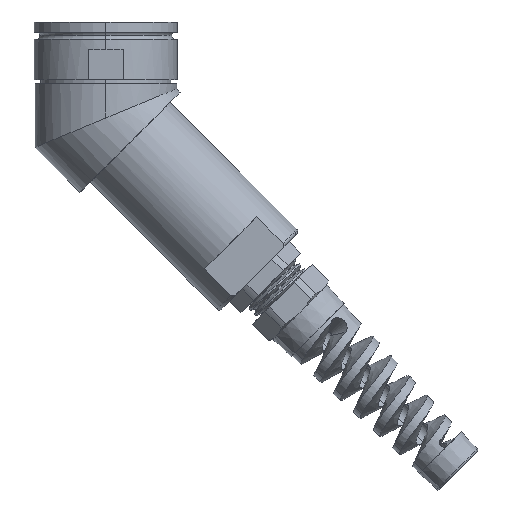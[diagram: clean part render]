
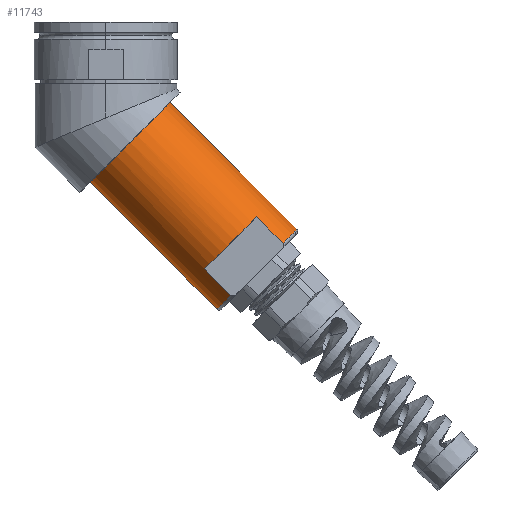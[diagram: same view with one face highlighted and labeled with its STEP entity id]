
A CAD part, left-side view. The second image highlights one B-rep face of the part: STEP entity #11743.
In plain terms, the highlighted cylindrical face has radius 17.691 mm (diameter 35.382 mm), a partial arc.
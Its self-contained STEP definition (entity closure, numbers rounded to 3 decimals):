
#410 = EDGE_CURVE ( 'NONE', #7969, #7049, #2417, .T. ) ;
#682 = CARTESIAN_POINT ( 'NONE',  ( 0., -7.666, -32.096 ) ) ;
#1302 = CARTESIAN_POINT ( 'NONE',  ( 0., -20.175, -19.586 ) ) ;
#1747 = EDGE_LOOP ( 'NONE', ( #13418, #2246, #14844, #16267, #4985, #5439, #15079, #14274 ) ) ;
#2246 = ORIENTED_EDGE ( 'NONE', *, *, #2451, .T. ) ;
#2417 = LINE ( 'NONE', #13079, #12366 ) ;
#2451 = EDGE_CURVE ( 'NONE', #11534, #7049, #12344, .T. ) ;
#2795 = AXIS2_PLACEMENT_3D ( 'NONE', #15253, #13905, #3008 ) ;
#2890 = VECTOR ( 'NONE', #6769, 1000. ) ;
#3008 = DIRECTION ( 'NONE',  ( 0., -0.707, 0.707 ) ) ;
#3180 = CARTESIAN_POINT ( 'NONE',  ( 0., 4.844, -44.605 ) ) ;
#3288 = DIRECTION ( 'NONE',  ( 0., -0.707, 0.707 ) ) ;
#3932 = CARTESIAN_POINT ( 'NONE',  ( -13.399, -47.301, -55.394 ) ) ;
#3944 = CARTESIAN_POINT ( 'NONE',  ( 0., -59.904, -59.315 ) ) ;
#4238 = EDGE_CURVE ( 'NONE', #11673, #7969, #7180, .T. ) ;
#4343 = DIRECTION ( 'NONE',  ( 0., -0.707, -0.707 ) ) ;
#4673 = AXIS2_PLACEMENT_3D ( 'NONE', #7266, #4793, #8507 ) ;
#4793 = DIRECTION ( 'NONE',  ( 0., 0.707, 0.707 ) ) ;
#4985 = ORIENTED_EDGE ( 'NONE', *, *, #7178, .T. ) ;
#5137 = AXIS2_PLACEMENT_3D ( 'NONE', #5836, #9913, #15347 ) ;
#5439 = ORIENTED_EDGE ( 'NONE', *, *, #11470, .T. ) ;
#5836 = CARTESIAN_POINT ( 'NONE',  ( 0., -47.394, -71.825 ) ) ;
#5889 = CIRCLE ( 'NONE', #2795, 17.691 ) ;
#6158 = CARTESIAN_POINT ( 'NONE',  ( -13.399, -30.964, -71.731 ) ) ;
#6489 = CARTESIAN_POINT ( 'NONE',  ( -13.399, -39.226, -79.993 ) ) ;
#6769 = DIRECTION ( 'NONE',  ( 0., 0.707, 0.707 ) ) ;
#7049 = VERTEX_POINT ( 'NONE', #6489 ) ;
#7178 = EDGE_CURVE ( 'NONE', #11673, #11850, #16080, .T. ) ;
#7180 = CIRCLE ( 'NONE', #10304, 17.691 ) ;
#7266 = CARTESIAN_POINT ( 'NONE',  ( 0., -47.394, -71.825 ) ) ;
#7302 = VERTEX_POINT ( 'NONE', #8245 ) ;
#7969 = VERTEX_POINT ( 'NONE', #6158 ) ;
#8245 = CARTESIAN_POINT ( 'NONE',  ( 0., -20.175, -19.586 ) ) ;
#8507 = DIRECTION ( 'NONE',  ( 0., -0.707, 0.707 ) ) ;
#9070 = CARTESIAN_POINT ( 'NONE',  ( 0., -34.885, -84.334 ) ) ;
#9072 = VERTEX_POINT ( 'NONE', #14041 ) ;
#9913 = DIRECTION ( 'NONE',  ( 0., 0.707, 0.707 ) ) ;
#9959 = CYLINDRICAL_SURFACE ( 'NONE', #15411, 17.691 ) ;
#10304 = AXIS2_PLACEMENT_3D ( 'NONE', #16842, #4343, #3288 ) ;
#10730 = EDGE_CURVE ( 'NONE', #11534, #9072, #12589, .T. ) ;
#10853 = CARTESIAN_POINT ( 'NONE',  ( -13.399, -47.301, -55.394 ) ) ;
#10985 = EDGE_CURVE ( 'NONE', #14500, #7302, #16456, .T. ) ;
#11470 = EDGE_CURVE ( 'NONE', #11850, #14500, #13119, .T. ) ;
#11534 = VERTEX_POINT ( 'NONE', #9070 ) ;
#11562 = DIRECTION ( 'NONE',  ( 0., -0.707, 0.707 ) ) ;
#11673 = VERTEX_POINT ( 'NONE', #10853 ) ;
#11743 = ADVANCED_FACE ( 'NONE', ( #15479 ), #9959, .T. ) ;
#11850 = VERTEX_POINT ( 'NONE', #12911 ) ;
#12344 = CIRCLE ( 'NONE', #4673, 17.691 ) ;
#12366 = VECTOR ( 'NONE', #15813, 1000. ) ;
#12553 = VECTOR ( 'NONE', #15910, 1000. ) ;
#12589 = LINE ( 'NONE', #3180, #12803 ) ;
#12803 = VECTOR ( 'NONE', #15507, 1000. ) ;
#12911 = CARTESIAN_POINT ( 'NONE',  ( -13.399, -55.563, -63.656 ) ) ;
#13079 = CARTESIAN_POINT ( 'NONE',  ( -13.399, -30.964, -71.731 ) ) ;
#13119 = CIRCLE ( 'NONE', #5137, 17.691 ) ;
#13418 = ORIENTED_EDGE ( 'NONE', *, *, #10730, .F. ) ;
#13905 = DIRECTION ( 'NONE',  ( 0., 0.707, 0.707 ) ) ;
#14041 = CARTESIAN_POINT ( 'NONE',  ( 0., 4.844, -44.605 ) ) ;
#14238 = DIRECTION ( 'NONE',  ( 0., 0.707, 0.707 ) ) ;
#14274 = ORIENTED_EDGE ( 'NONE', *, *, #15689, .F. ) ;
#14500 = VERTEX_POINT ( 'NONE', #3944 ) ;
#14844 = ORIENTED_EDGE ( 'NONE', *, *, #410, .F. ) ;
#15079 = ORIENTED_EDGE ( 'NONE', *, *, #10985, .T. ) ;
#15253 = CARTESIAN_POINT ( 'NONE',  ( 0., -7.666, -32.096 ) ) ;
#15347 = DIRECTION ( 'NONE',  ( 0., -0.707, 0.707 ) ) ;
#15411 = AXIS2_PLACEMENT_3D ( 'NONE', #682, #14238, #11562 ) ;
#15479 = FACE_OUTER_BOUND ( 'NONE', #1747, .T. ) ;
#15507 = DIRECTION ( 'NONE',  ( 0., 0.707, 0.707 ) ) ;
#15689 = EDGE_CURVE ( 'NONE', #9072, #7302, #5889, .T. ) ;
#15813 = DIRECTION ( 'NONE',  ( 0., -0.707, -0.707 ) ) ;
#15910 = DIRECTION ( 'NONE',  ( 0., -0.707, -0.707 ) ) ;
#16080 = LINE ( 'NONE', #3932, #12553 ) ;
#16267 = ORIENTED_EDGE ( 'NONE', *, *, #4238, .F. ) ;
#16456 = LINE ( 'NONE', #1302, #2890 ) ;
#16842 = CARTESIAN_POINT ( 'NONE',  ( 0., -39.133, -63.563 ) ) ;
